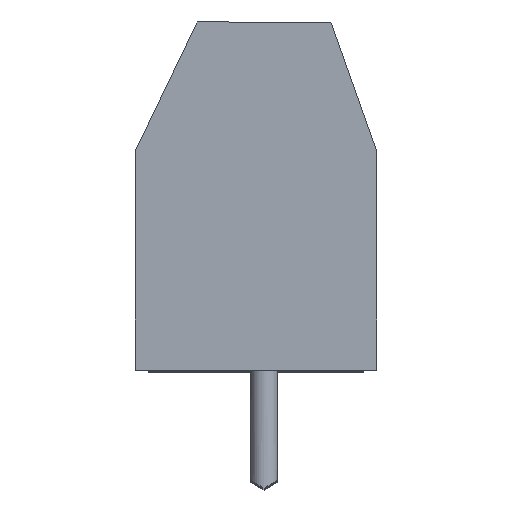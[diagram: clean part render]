
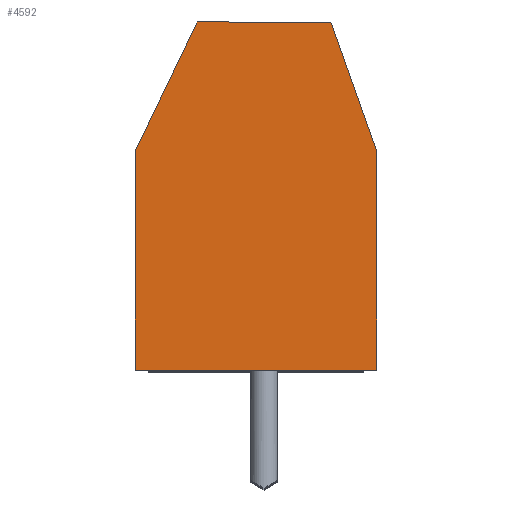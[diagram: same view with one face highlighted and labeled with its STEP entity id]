
A CAD part, top view. The second image highlights one B-rep face of the part: STEP entity #4592.
In plain terms, the highlighted planar face has unit normal (0, 0, 1).
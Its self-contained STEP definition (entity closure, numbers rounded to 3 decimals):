
#9 = LINE ( 'NONE', #4691, #11188 ) ;
#340 = DIRECTION ( 'NONE',  ( -0.334, 0.943, 0. ) ) ;
#722 = VECTOR ( 'NONE', #11997, 1000. ) ;
#1142 = DIRECTION ( 'NONE',  ( -1., 0., 0. ) ) ;
#1212 = CARTESIAN_POINT ( 'NONE',  ( 0., 8.2, 0. ) ) ;
#1679 = VERTEX_POINT ( 'NONE', #3687 ) ;
#1936 = EDGE_CURVE ( 'NONE', #10651, #6494, #2599, .T. ) ;
#1997 = ORIENTED_EDGE ( 'NONE', *, *, #4337, .T. ) ;
#2275 = VECTOR ( 'NONE', #1142, 1000. ) ;
#2326 = CARTESIAN_POINT ( 'NONE',  ( 0., 0., 0. ) ) ;
#2390 = AXIS2_PLACEMENT_3D ( 'NONE', #10280, #5973, #6058 ) ;
#2574 = ORIENTED_EDGE ( 'NONE', *, *, #1936, .T. ) ;
#2599 = LINE ( 'NONE', #4393, #2275 ) ;
#2615 = ORIENTED_EDGE ( 'NONE', *, *, #14044, .T. ) ;
#2863 = CARTESIAN_POINT ( 'NONE',  ( 0., 8.2, 0. ) ) ;
#3159 = EDGE_CURVE ( 'NONE', #10891, #10074, #3594, .T. ) ;
#3594 = LINE ( 'NONE', #1212, #722 ) ;
#3687 = CARTESIAN_POINT ( 'NONE',  ( -9., 0., 0. ) ) ;
#4267 = VECTOR ( 'NONE', #9358, 1000. ) ;
#4337 = EDGE_CURVE ( 'NONE', #1679, #10891, #9, .T. ) ;
#4393 = CARTESIAN_POINT ( 'NONE',  ( -9., 13., 0. ) ) ;
#4592 = ADVANCED_FACE ( 'NONE', ( #13391 ), #9199, .T. ) ;
#4691 = CARTESIAN_POINT ( 'NONE',  ( -9., 0., 0. ) ) ;
#4732 = LINE ( 'NONE', #9437, #11871 ) ;
#5018 = CARTESIAN_POINT ( 'NONE',  ( -9., 0.3, 0. ) ) ;
#5430 = EDGE_LOOP ( 'NONE', ( #2574, #2615, #5706, #1997, #6864, #8970 ) ) ;
#5596 = DIRECTION ( 'NONE',  ( 1., 0., 0. ) ) ;
#5659 = CARTESIAN_POINT ( 'NONE',  ( -6.7, 13., 0. ) ) ;
#5706 = ORIENTED_EDGE ( 'NONE', *, *, #10055, .F. ) ;
#5973 = DIRECTION ( 'NONE',  ( 0., 0., 1. ) ) ;
#6058 = DIRECTION ( 'NONE',  ( 1., 0., 0. ) ) ;
#6210 = DIRECTION ( 'NONE',  ( -0.432, -0.902, 0. ) ) ;
#6346 = CARTESIAN_POINT ( 'NONE',  ( -1.7, 13., 0. ) ) ;
#6395 = CARTESIAN_POINT ( 'NONE',  ( -9., 8.2, 0. ) ) ;
#6494 = VERTEX_POINT ( 'NONE', #5659 ) ;
#6864 = ORIENTED_EDGE ( 'NONE', *, *, #3159, .T. ) ;
#7154 = LINE ( 'NONE', #5018, #4267 ) ;
#7641 = LINE ( 'NONE', #7960, #8990 ) ;
#7960 = CARTESIAN_POINT ( 'NONE',  ( 0., 8.2, 0. ) ) ;
#8970 = ORIENTED_EDGE ( 'NONE', *, *, #12693, .T. ) ;
#8990 = VECTOR ( 'NONE', #340, 1000. ) ;
#9199 = PLANE ( 'NONE',  #2390 ) ;
#9358 = DIRECTION ( 'NONE',  ( 0., 1., 0. ) ) ;
#9437 = CARTESIAN_POINT ( 'NONE',  ( -6.7, 13., 0. ) ) ;
#10055 = EDGE_CURVE ( 'NONE', #1679, #12385, #7154, .T. ) ;
#10074 = VERTEX_POINT ( 'NONE', #2863 ) ;
#10280 = CARTESIAN_POINT ( 'NONE',  ( -9., 8.2, 0. ) ) ;
#10651 = VERTEX_POINT ( 'NONE', #6346 ) ;
#10891 = VERTEX_POINT ( 'NONE', #2326 ) ;
#11188 = VECTOR ( 'NONE', #5596, 1000. ) ;
#11871 = VECTOR ( 'NONE', #6210, 1000. ) ;
#11997 = DIRECTION ( 'NONE',  ( 0., 1., 0. ) ) ;
#12385 = VERTEX_POINT ( 'NONE', #6395 ) ;
#12693 = EDGE_CURVE ( 'NONE', #10074, #10651, #7641, .T. ) ;
#13391 = FACE_OUTER_BOUND ( 'NONE', #5430, .T. ) ;
#14044 = EDGE_CURVE ( 'NONE', #6494, #12385, #4732, .T. ) ;
